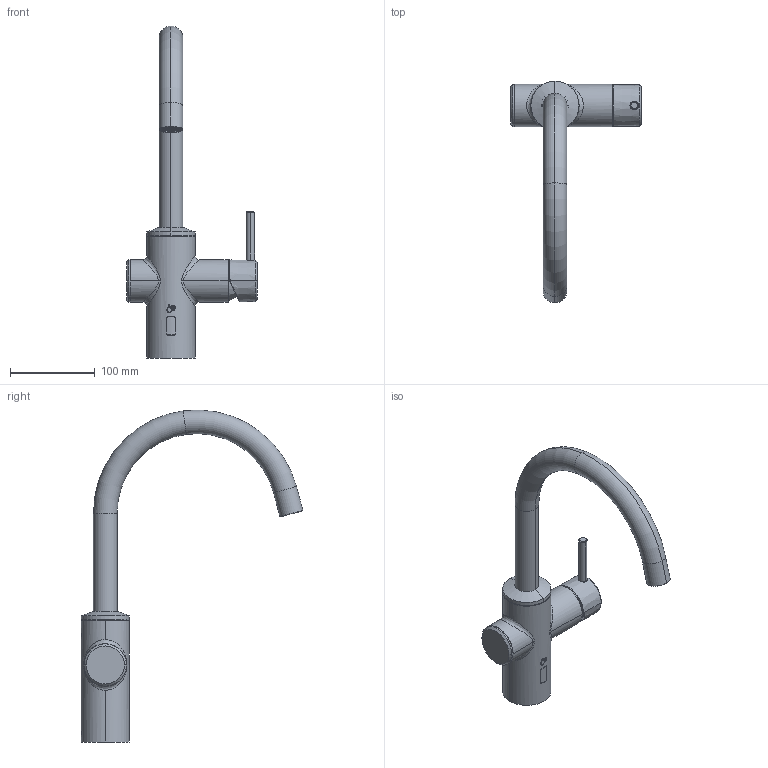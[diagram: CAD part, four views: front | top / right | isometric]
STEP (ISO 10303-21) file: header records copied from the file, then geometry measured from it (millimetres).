
FILE_DESCRIPTION((''),'2;1');
FILE_NAME('2030061048_ASM','2023-10-04T09:58:40',('CS925'),(''),'CREO PARAMETRIC BY PTC INC, 2022244','CREO PARAMETRIC BY PTC INC, 2022244','');
FILE_SCHEMA(('CONFIG_CONTROL_DESIGN'));
Length unit declared in the file: millimetre
Products named in the file (28): 10302741_IPT_000; SOLID5-25; 10282505_IPT_000_ASM; 10299229_IPT_000; 10299409_IPT_000; 10299531_IPT_000; 0222-100221; 10299736_IAM_000_ASM; 10299215_IPT_000; 0222-204642; 10299216_IPT_000; 10299283_IPT_000; 10299369_IPT_000; 10300089_IPT_000; 10300090_IPT_000; 10300506_IPT_000; 10299926_IAM_000_ASM; 10281335_IPT_000; 10299213_IPT_000; 10299296_IPT_000; 10299930_IAM_000_ASM; 10299411_IPT_000; 10299991_IPT_000; SOLID5-7636; SOLID6-7637; 40_2351_010_FOR_CUSTOMER_ASM; 10299214_IAM_000_ASM; 2030061048_ASM
Assembly tree (32 placements, depth 4):
  2030061048_ASM
    10299214_IAM_000_ASM
      10302741_IPT_000
      10282505_IPT_000_ASM
        SOLID5-25
      10299229_IPT_000
      10299409_IPT_000
      10299736_IAM_000_ASM  x3
        10299531_IPT_000
        0222-100221
      10299926_IAM_000_ASM
        10299215_IPT_000
        0222-204642
        10299216_IPT_000
        10299283_IPT_000  x2
        10299369_IPT_000  x2
        10300089_IPT_000
        10300090_IPT_000  x2
        10300506_IPT_000
      10299930_IAM_000_ASM
        10281335_IPT_000
        10299213_IPT_000
        10299296_IPT_000
      10299411_IPT_000
      10299991_IPT_000
      40_2351_010_FOR_CUSTOMER_ASM
        SOLID5-7636
        SOLID6-7637
Bounding box: 154.7 x 261.89 x 392.25 mm (x, y, z)
Volume: 303432.5 mm3; surface area: 213968.2 mm2
Topology: 28 solids, 38 shells, 6007 faces, 16823 edges, 10942 vertices
Faces by surface type: plane 3931, cylinder 1032, torus 293, bspline 278, extrusion 188, cone 182, sphere 79, revolution 24
Entity records: 228548 total; most frequent: CARTESIAN_POINT 86580, ORIENTED_EDGE 33178, DIRECTION 23159, EDGE_CURVE 16589, VERTEX_POINT 10836, AXIS2_PLACEMENT_3D 7868, VECTOR 7407, B_SPLINE_CURVE_WITH_KNOTS 7236
